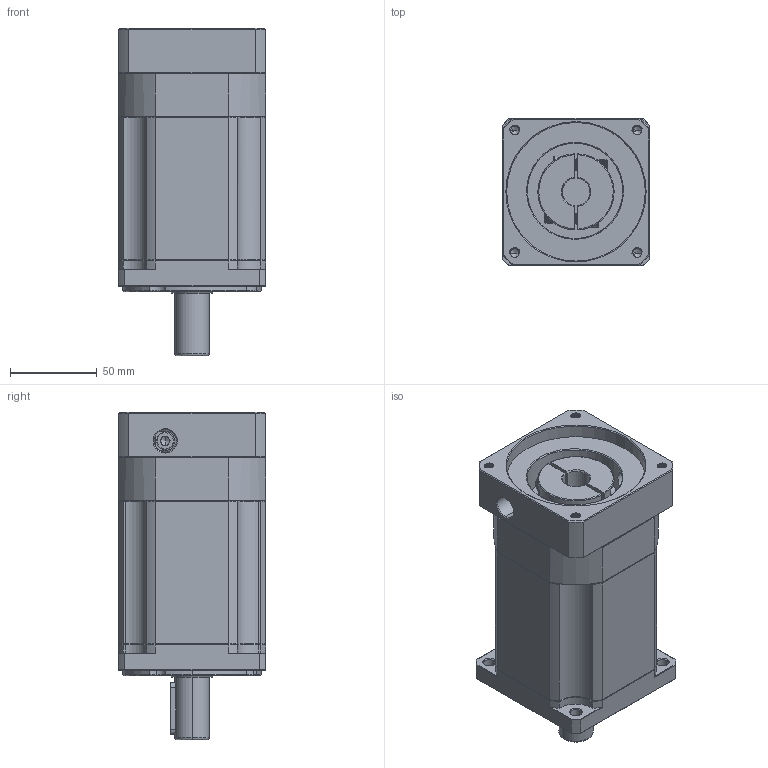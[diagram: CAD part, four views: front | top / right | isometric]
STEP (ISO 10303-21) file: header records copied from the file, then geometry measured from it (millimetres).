
FILE_DESCRIPTION (( 'STEP AP214' ), '1' );
FILE_NAME ('ZB090-D20-L3-P2-16-80-100-M6.step', '2023-08-18T12:11:33', ( '' ), ( '' ), 'SwSTEP 2.0', 'SolidWorks 2016', '' );
FILE_SCHEMA (( 'AUTOMOTIVE_DESIGN' ));
Length unit declared in the file: millimetre
Products named in the file (1): ZB090-D20-L3-P2-16-80-100-M6
Bounding box: 85 x 85 x 189 mm (x, y, z)
Volume: 903887.6 mm3; surface area: 101135.8 mm2
Topology: 4 solids, 5 shells, 2219 faces, 5885 edges, 3751 vertices
Faces by surface type: plane 1066, bspline 397, cylinder 396, cone 333, torus 27
Entity records: 120599 total; most frequent: CARTESIAN_POINT 44536, ORIENTED_EDGE 11726, DIRECTION 9169, EDGE_CURVE 5863, VERTEX_POINT 3751, LINE 3723, VECTOR 3723, AXIS2_PLACEMENT_3D 2723
